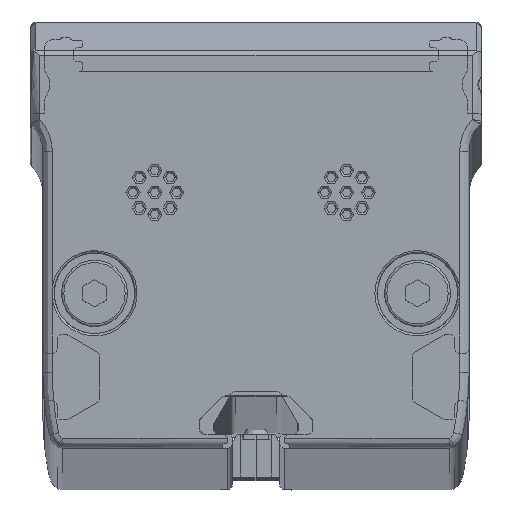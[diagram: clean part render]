
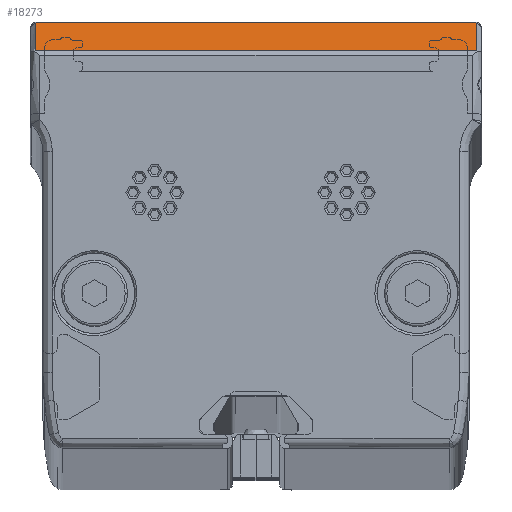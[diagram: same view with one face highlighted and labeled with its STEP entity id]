
A CAD part, top view. The second image highlights one B-rep face of the part: STEP entity #18273.
In plain terms, the highlighted planar face has unit normal (0, 0.858, 0.514).
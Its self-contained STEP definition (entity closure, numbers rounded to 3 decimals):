
#262 = ORIENTED_EDGE ( 'NONE', *, *, #28230, .T. ) ;
#811 = ORIENTED_EDGE ( 'NONE', *, *, #17584, .T. ) ;
#924 = VERTEX_POINT ( 'NONE', #13555 ) ;
#1172 = CARTESIAN_POINT ( 'NONE',  ( 23.215, 22.429, 2504.914 ) ) ;
#1264 = ORIENTED_EDGE ( 'NONE', *, *, #18727, .T. ) ;
#1399 = ORIENTED_EDGE ( 'NONE', *, *, #4866, .T. ) ;
#1798 = CARTESIAN_POINT ( 'NONE',  ( -23.315, 19.287, 2510.15 ) ) ;
#2998 = CARTESIAN_POINT ( 'NONE',  ( -23.315, 22.387, 2504.983 ) ) ;
#3391 = ORIENTED_EDGE ( 'NONE', *, *, #21524, .T. ) ;
#3865 = CARTESIAN_POINT ( 'NONE',  ( 23.315, 22.387, 2504.983 ) ) ;
#4473 = VERTEX_POINT ( 'NONE', #18252 ) ;
#4866 = EDGE_CURVE ( 'NONE', #17161, #29241, #29523, .T. ) ;
#5220 = VERTEX_POINT ( 'NONE', #22116 ) ;
#5548 = CARTESIAN_POINT ( 'NONE',  ( 23.215, 22.429, 2504.914 ) ) ;
#8521 =( BOUNDED_CURVE ( )  B_SPLINE_CURVE ( 3, ( #28887, #3865, #20594, #18182 ),
 .UNSPECIFIED., .F., .T. ) 
 B_SPLINE_CURVE_WITH_KNOTS ( ( 4, 4 ),
 ( 4.712, 6.283 ),
 .UNSPECIFIED. ) 
 CURVE ( )  GEOMETRIC_REPRESENTATION_ITEM ( )  RATIONAL_B_SPLINE_CURVE ( ( 1., 0.805, 0.805, 1. ) ) 
 REPRESENTATION_ITEM ( '' )  );
#10908 = ORIENTED_EDGE ( 'NONE', *, *, #13606, .T. ) ;
#11645 = CARTESIAN_POINT ( 'NONE',  ( -23.315, 22.329, 2505.08 ) ) ;
#11774 = EDGE_CURVE ( 'NONE', #29241, #5220, #17354, .T. ) ;
#12238 = VECTOR ( 'NONE', #25767, 1000. ) ;
#13413 = CARTESIAN_POINT ( 'NONE',  ( -23.215, 22.429, 2504.914 ) ) ;
#13555 = CARTESIAN_POINT ( 'NONE',  ( 23.215, 22.429, 2504.914 ) ) ;
#13606 = EDGE_CURVE ( 'NONE', #17264, #4473, #27113, .T. ) ;
#14205 = AXIS2_PLACEMENT_3D ( 'NONE', #15619, #29469, #18458 ) ;
#14605 = CARTESIAN_POINT ( 'NONE',  ( 23.315, 19.287, 2510.15 ) ) ;
#15619 = CARTESIAN_POINT ( 'NONE',  ( 23.82, 19.287, 2510.15 ) ) ;
#15910 = VECTOR ( 'NONE', #25000, 1000. ) ;
#16603 = CARTESIAN_POINT ( 'NONE',  ( 23.215, 22.429, 2504.914 ) ) ;
#16620 =( BOUNDED_CURVE ( )  B_SPLINE_CURVE ( 3, ( #26359, #28619, #2998, #22141 ),
 .UNSPECIFIED., .F., .F. ) 
 B_SPLINE_CURVE_WITH_KNOTS ( ( 4, 4 ),
 ( 0., 1.571 ),
 .UNSPECIFIED. ) 
 CURVE ( )  GEOMETRIC_REPRESENTATION_ITEM ( )  RATIONAL_B_SPLINE_CURVE ( ( 1., 0.805, 0.805, 1. ) ) 
 REPRESENTATION_ITEM ( '' )  );
#16720 = LINE ( 'NONE', #14605, #12238 ) ;
#16906 = CARTESIAN_POINT ( 'NONE',  ( 23.82, 19.433, 2509.907 ) ) ;
#17103 = VECTOR ( 'NONE', #26552, 1000. ) ;
#17161 = VERTEX_POINT ( 'NONE', #11645 ) ;
#17264 = VERTEX_POINT ( 'NONE', #16603 ) ;
#17354 = LINE ( 'NONE', #16906, #17103 ) ;
#17584 = EDGE_CURVE ( 'NONE', #5220, #19757, #16720, .T. ) ;
#18182 = CARTESIAN_POINT ( 'NONE',  ( 23.215, 22.429, 2504.914 ) ) ;
#18252 = CARTESIAN_POINT ( 'NONE',  ( -23.215, 22.429, 2504.914 ) ) ;
#18273 = ADVANCED_FACE ( 'NONE', ( #22828 ), #25392, .F. ) ;
#18458 = DIRECTION ( 'NONE',  ( 0., 0.514, -0.857 ) ) ;
#18727 = EDGE_CURVE ( 'NONE', #4473, #17161, #16620, .T. ) ;
#19744 = CARTESIAN_POINT ( 'NONE',  ( 23.315, 22.329, 2505.08 ) ) ;
#19757 = VERTEX_POINT ( 'NONE', #19744 ) ;
#20594 = CARTESIAN_POINT ( 'NONE',  ( 23.274, 22.429, 2504.914 ) ) ;
#21399 = CARTESIAN_POINT ( 'NONE',  ( -23.315, 19.433, 2509.907 ) ) ;
#21524 = EDGE_CURVE ( 'NONE', #924, #17264, #23466, .T. ) ;
#21611 = ORIENTED_EDGE ( 'NONE', *, *, #11774, .T. ) ;
#22114 = VECTOR ( 'NONE', #27271, 1000. ) ;
#22116 = CARTESIAN_POINT ( 'NONE',  ( 23.315, 19.433, 2509.907 ) ) ;
#22141 = CARTESIAN_POINT ( 'NONE',  ( -23.315, 22.329, 2505.08 ) ) ;
#22828 = FACE_OUTER_BOUND ( 'NONE', #28505, .T. ) ;
#23466 =( BOUNDED_CURVE ( )  B_SPLINE_CURVE ( 3, ( #1172, #26187, #5548, #24228 ),
 .UNSPECIFIED., .F., .T. ) 
 B_SPLINE_CURVE_WITH_KNOTS ( ( 4, 4 ),
 ( 6.283, 6.283 ),
 .UNSPECIFIED. ) 
 CURVE ( )  GEOMETRIC_REPRESENTATION_ITEM ( )  RATIONAL_B_SPLINE_CURVE ( ( 1., 1., 1., 1. ) ) 
 REPRESENTATION_ITEM ( '' )  );
#24228 = CARTESIAN_POINT ( 'NONE',  ( 23.215, 22.429, 2504.914 ) ) ;
#25000 = DIRECTION ( 'NONE',  ( -1., 0., 0. ) ) ;
#25392 = PLANE ( 'NONE',  #14205 ) ;
#25767 = DIRECTION ( 'NONE',  ( 0., 0.514, -0.857 ) ) ;
#26187 = CARTESIAN_POINT ( 'NONE',  ( 23.215, 22.429, 2504.914 ) ) ;
#26359 = CARTESIAN_POINT ( 'NONE',  ( -23.215, 22.429, 2504.914 ) ) ;
#26552 = DIRECTION ( 'NONE',  ( 1., 0., 0. ) ) ;
#27113 = LINE ( 'NONE', #13413, #15910 ) ;
#27271 = DIRECTION ( 'NONE',  ( 0., -0.514, 0.857 ) ) ;
#28230 = EDGE_CURVE ( 'NONE', #19757, #924, #8521, .T. ) ;
#28505 = EDGE_LOOP ( 'NONE', ( #21611, #811, #262, #3391, #10908, #1264, #1399 ) ) ;
#28619 = CARTESIAN_POINT ( 'NONE',  ( -23.274, 22.429, 2504.914 ) ) ;
#28887 = CARTESIAN_POINT ( 'NONE',  ( 23.315, 22.329, 2505.08 ) ) ;
#29241 = VERTEX_POINT ( 'NONE', #21399 ) ;
#29469 = DIRECTION ( 'NONE',  ( 0., -0.857, -0.514 ) ) ;
#29523 = LINE ( 'NONE', #1798, #22114 ) ;
